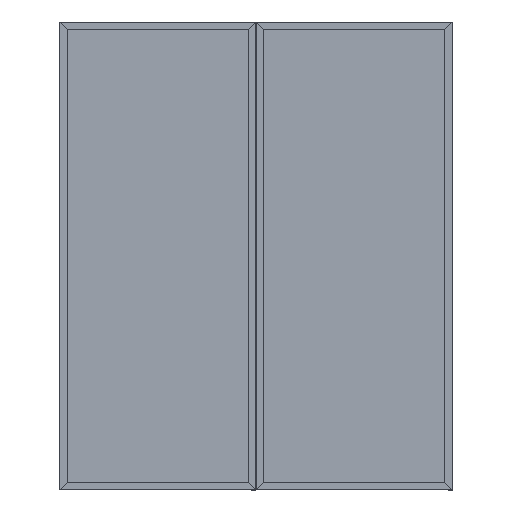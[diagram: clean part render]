
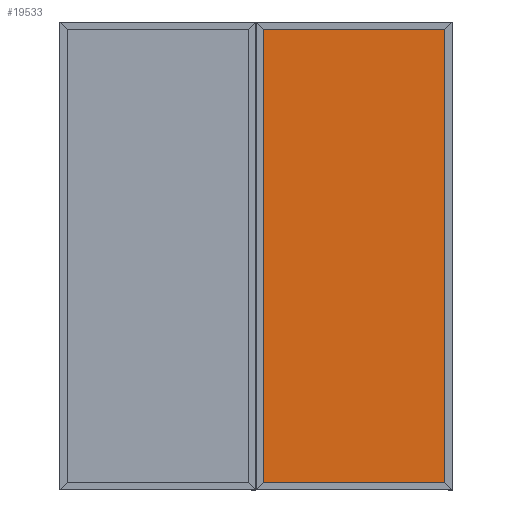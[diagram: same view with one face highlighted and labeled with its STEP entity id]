
A CAD part, top view. The second image highlights one B-rep face of the part: STEP entity #19533.
In plain terms, the highlighted planar face has unit normal (0, 0, 1).
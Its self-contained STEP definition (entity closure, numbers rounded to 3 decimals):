
#479 = EDGE_CURVE ( 'NONE', #8802, #3739, #2100, .T. ) ;
#1224 = CARTESIAN_POINT ( 'NONE',  ( 465.07, -1162.2, -13.25 ) ) ;
#1867 = ORIENTED_EDGE ( 'NONE', *, *, #479, .T. ) ;
#2100 = LINE ( 'NONE', #4125, #13860 ) ;
#2272 = CARTESIAN_POINT ( 'NONE',  ( -465.07, 1162.2, -13.25 ) ) ;
#3062 = DIRECTION ( 'NONE',  ( -1., 0., 0. ) ) ;
#3739 = VERTEX_POINT ( 'NONE', #4028 ) ;
#4028 = CARTESIAN_POINT ( 'NONE',  ( 465.07, 1162.2, -13.25 ) ) ;
#4125 = CARTESIAN_POINT ( 'NONE',  ( 465.07, 0., -13.25 ) ) ;
#5385 = ORIENTED_EDGE ( 'NONE', *, *, #9763, .F. ) ;
#5995 = CARTESIAN_POINT ( 'NONE',  ( 0., 0., -13.25 ) ) ;
#6588 = DIRECTION ( 'NONE',  ( 0., 1., 0. ) ) ;
#8049 = DIRECTION ( 'NONE',  ( 0., 0., -1. ) ) ;
#8337 = PLANE ( 'NONE',  #16081 ) ;
#8719 = VERTEX_POINT ( 'NONE', #2272 ) ;
#8802 = VERTEX_POINT ( 'NONE', #1224 ) ;
#9352 = EDGE_CURVE ( 'NONE', #3739, #8719, #18421, .T. ) ;
#9763 = EDGE_CURVE ( 'NONE', #16820, #8719, #15361, .T. ) ;
#11656 = LINE ( 'NONE', #27660, #12631 ) ;
#12417 = DIRECTION ( 'NONE',  ( -1., 0., 0. ) ) ;
#12631 = VECTOR ( 'NONE', #3062, 1000. ) ;
#13507 = EDGE_CURVE ( 'NONE', #8802, #16820, #11656, .T. ) ;
#13860 = VECTOR ( 'NONE', #6588, 1000. ) ;
#15105 = ORIENTED_EDGE ( 'NONE', *, *, #9352, .T. ) ;
#15361 = LINE ( 'NONE', #20282, #23076 ) ;
#15797 = DIRECTION ( 'NONE',  ( 0., 1., 0. ) ) ;
#16081 = AXIS2_PLACEMENT_3D ( 'NONE', #5995, #8049, #12417 ) ;
#16502 = ORIENTED_EDGE ( 'NONE', *, *, #13507, .F. ) ;
#16820 = VERTEX_POINT ( 'NONE', #22283 ) ;
#18421 = LINE ( 'NONE', #26990, #28710 ) ;
#19158 = EDGE_LOOP ( 'NONE', ( #5385, #16502, #1867, #15105 ) ) ;
#19533 = ADVANCED_FACE ( 'NONE', ( #26219 ), #8337, .F. ) ;
#20282 = CARTESIAN_POINT ( 'NONE',  ( -465.07, 0., -13.25 ) ) ;
#22283 = CARTESIAN_POINT ( 'NONE',  ( -465.07, -1162.2, -13.25 ) ) ;
#23076 = VECTOR ( 'NONE', #15797, 1000. ) ;
#24962 = DIRECTION ( 'NONE',  ( -1., 0., 0. ) ) ;
#26219 = FACE_OUTER_BOUND ( 'NONE', #19158, .T. ) ;
#26990 = CARTESIAN_POINT ( 'NONE',  ( 0., 1162.2, -13.25 ) ) ;
#27660 = CARTESIAN_POINT ( 'NONE',  ( 0., -1162.2, -13.25 ) ) ;
#28710 = VECTOR ( 'NONE', #24962, 1000. ) ;
